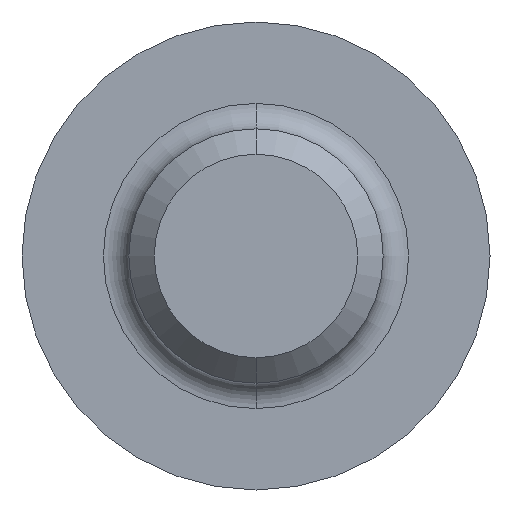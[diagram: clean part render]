
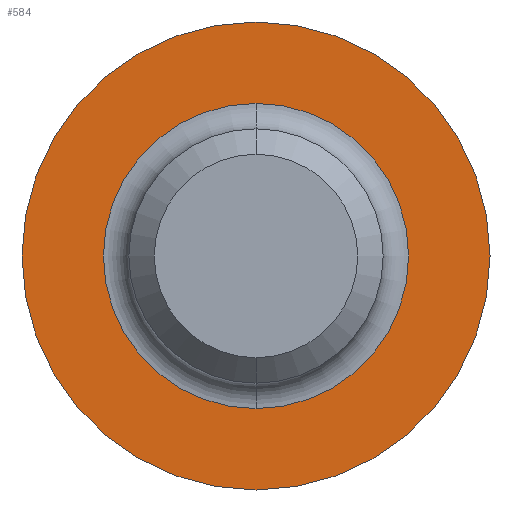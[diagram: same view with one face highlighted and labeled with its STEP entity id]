
A CAD part, front view. The second image highlights one B-rep face of the part: STEP entity #584.
In plain terms, the highlighted planar face has unit normal (0, -1, 0).
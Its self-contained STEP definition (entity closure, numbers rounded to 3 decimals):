
#11 = VERTEX_POINT ( 'NONE', #93 ) ;
#33 = EDGE_CURVE ( 'NONE', #74, #577, #179, .T. ) ;
#74 = VERTEX_POINT ( 'NONE', #747 ) ;
#93 = CARTESIAN_POINT ( 'NONE',  ( 0., 27., -6. ) ) ;
#118 = DIRECTION ( 'NONE',  ( 0., 0., 1. ) ) ;
#148 = ORIENTED_EDGE ( 'NONE', *, *, #345, .F. ) ;
#155 = ORIENTED_EDGE ( 'NONE', *, *, #809, .T. ) ;
#179 = CIRCLE ( 'NONE', #473, 9.2 ) ;
#204 = AXIS2_PLACEMENT_3D ( 'NONE', #319, #218, #118 ) ;
#218 = DIRECTION ( 'NONE',  ( 0., 1., 0. ) ) ;
#231 = EDGE_CURVE ( 'NONE', #865, #11, #410, .T. ) ;
#294 = EDGE_LOOP ( 'NONE', ( #745, #155 ) ) ;
#319 = CARTESIAN_POINT ( 'NONE',  ( 0., 27., 0. ) ) ;
#345 = EDGE_CURVE ( 'NONE', #577, #74, #876, .T. ) ;
#364 = DIRECTION ( 'NONE',  ( 0., 0., 1. ) ) ;
#365 = FACE_BOUND ( 'NONE', #294, .T. ) ;
#396 = CARTESIAN_POINT ( 'NONE',  ( 0., 27., 6. ) ) ;
#410 = CIRCLE ( 'NONE', #477, 6. ) ;
#420 = CIRCLE ( 'NONE', #758, 6. ) ;
#452 = DIRECTION ( 'NONE',  ( 0., 0., 1. ) ) ;
#468 = DIRECTION ( 'NONE',  ( 0., 1., 0. ) ) ;
#473 = AXIS2_PLACEMENT_3D ( 'NONE', #691, #870, #768 ) ;
#477 = AXIS2_PLACEMENT_3D ( 'NONE', #570, #468, #364 ) ;
#509 = CARTESIAN_POINT ( 'NONE',  ( 0., 27., 9.2 ) ) ;
#551 = DIRECTION ( 'NONE',  ( 0., 1., 0. ) ) ;
#570 = CARTESIAN_POINT ( 'NONE',  ( 0., 27., 0. ) ) ;
#577 = VERTEX_POINT ( 'NONE', #509 ) ;
#584 = ADVANCED_FACE ( 'NONE', ( #365, #650 ), #615, .F. ) ;
#596 = DIRECTION ( 'NONE',  ( 0., 0., 1. ) ) ;
#601 = AXIS2_PLACEMENT_3D ( 'NONE', #789, #692, #596 ) ;
#615 = PLANE ( 'NONE',  #601 ) ;
#633 = ORIENTED_EDGE ( 'NONE', *, *, #33, .F. ) ;
#650 = FACE_OUTER_BOUND ( 'NONE', #960, .T. ) ;
#659 = CARTESIAN_POINT ( 'NONE',  ( 0., 27., 0. ) ) ;
#691 = CARTESIAN_POINT ( 'NONE',  ( 0., 27., 0. ) ) ;
#692 = DIRECTION ( 'NONE',  ( 0., 1., 0. ) ) ;
#745 = ORIENTED_EDGE ( 'NONE', *, *, #231, .T. ) ;
#747 = CARTESIAN_POINT ( 'NONE',  ( 0., 27., -9.2 ) ) ;
#758 = AXIS2_PLACEMENT_3D ( 'NONE', #659, #551, #452 ) ;
#768 = DIRECTION ( 'NONE',  ( 0., 0., 1. ) ) ;
#789 = CARTESIAN_POINT ( 'NONE',  ( 0., 27., 0. ) ) ;
#809 = EDGE_CURVE ( 'NONE', #11, #865, #420, .T. ) ;
#865 = VERTEX_POINT ( 'NONE', #396 ) ;
#870 = DIRECTION ( 'NONE',  ( 0., 1., 0. ) ) ;
#876 = CIRCLE ( 'NONE', #204, 9.2 ) ;
#960 = EDGE_LOOP ( 'NONE', ( #633, #148 ) ) ;
